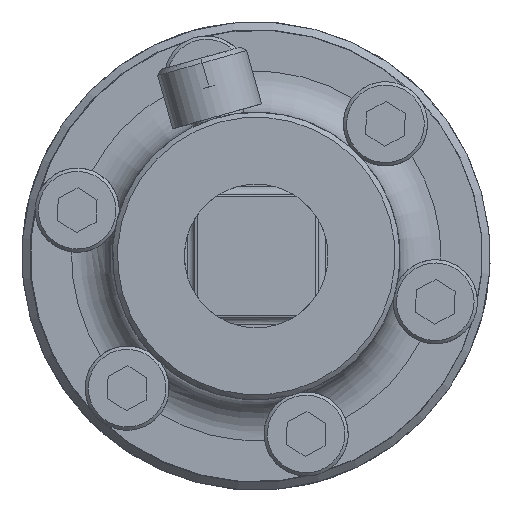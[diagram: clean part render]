
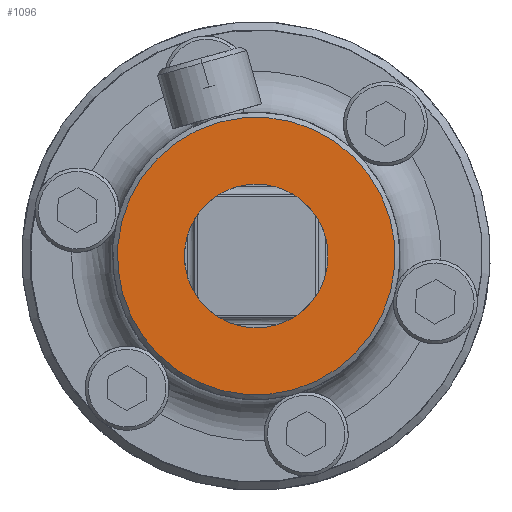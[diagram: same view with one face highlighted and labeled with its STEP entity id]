
A CAD part, left-side view. The second image highlights one B-rep face of the part: STEP entity #1096.
In plain terms, the highlighted planar face has unit normal (-1, 0, 0).
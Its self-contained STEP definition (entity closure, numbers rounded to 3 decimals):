
#253=FACE_BOUND('',#1610,.T.);
#448=PLANE('',#4621);
#1096=ADVANCED_FACE('',(#253,#1380),#448,.T.);
#1380=FACE_OUTER_BOUND('',#1611,.T.);
#1610=EDGE_LOOP('',(#2352));
#1611=EDGE_LOOP('',(#2353));
#2066=CIRCLE('',#4619,11.093);
#2067=CIRCLE('',#4620,21.463);
#2352=ORIENTED_EDGE('',*,*,#3955,.F.);
#2353=ORIENTED_EDGE('',*,*,#3956,.T.);
#3518=VERTEX_POINT('',#6743);
#3519=VERTEX_POINT('',#6745);
#3955=EDGE_CURVE('',#3518,#3518,#2066,.T.);
#3956=EDGE_CURVE('',#3519,#3519,#2067,.T.);
#4619=AXIS2_PLACEMENT_3D('',#6742,#5220,#5221);
#4620=AXIS2_PLACEMENT_3D('',#6744,#5222,#5223);
#4621=AXIS2_PLACEMENT_3D('',#6746,#5224,#5225);
#5220=DIRECTION('',(-1.,0.,0.));
#5221=DIRECTION('',(0.,0.,1.));
#5222=DIRECTION('',(-1.,0.,0.));
#5223=DIRECTION('',(0.,0.969,0.248));
#5224=DIRECTION('',(-1.,0.,0.));
#5225=DIRECTION('',(0.,0.969,0.248));
#6742=CARTESIAN_POINT('',(-333.858,-0.038,0.));
#6743=CARTESIAN_POINT('',(-333.858,-0.038,11.094));
#6744=CARTESIAN_POINT('',(-333.858,-0.038,0.));
#6745=CARTESIAN_POINT('',(-333.858,20.756,5.318));
#6746=CARTESIAN_POINT('',(-333.858,-0.038,0.));
